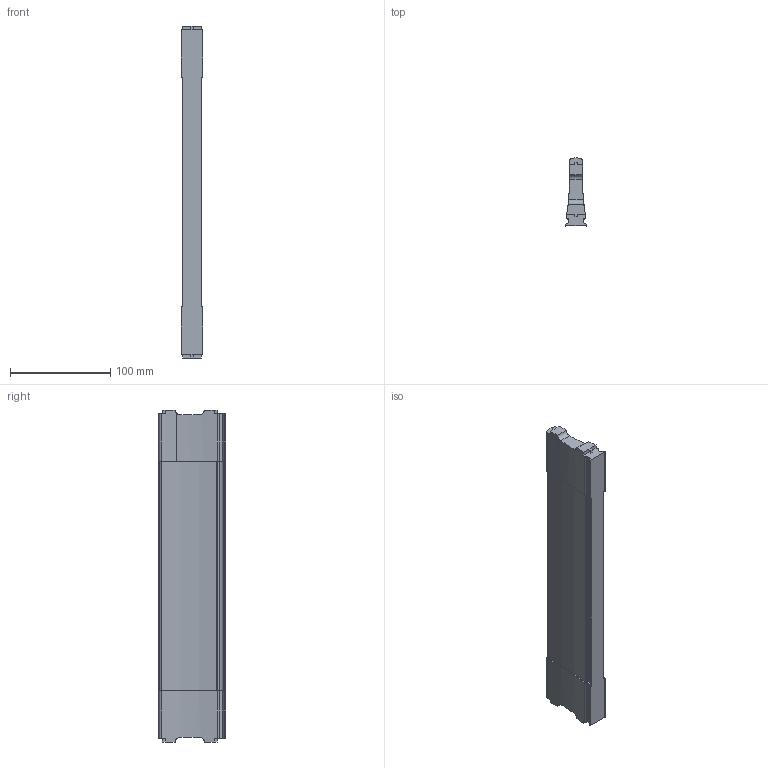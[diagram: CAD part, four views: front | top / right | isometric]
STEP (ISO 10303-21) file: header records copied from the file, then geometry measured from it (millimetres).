
FILE_DESCRIPTION (( 'STEP AP214' ), '1' );
FILE_NAME ('Traverse NOVAPro NL350 Mass X325,4_montiert.step', '2011-10-10T13:10:39', ( 'grass' ), ( '' ), 'SwSTEP 2.0', 'SolidWorks 2011', '' );
FILE_SCHEMA (( 'AUTOMOTIVE_DESIGN' ));
Length unit declared in the file: millimetre
Products named in the file (1): Traverse NOVAPro NL350 Mass X325,4_montiert
Bounding box: 21.4 x 67.5 x 331 mm (x, y, z)
Volume: 279786.7 mm3; surface area: 58361 mm2
Topology: 1 solids, 1 shells, 125 faces, 369 edges, 246 vertices
Faces by surface type: cylinder 68, plane 57
Entity records: 4377 total; most frequent: CARTESIAN_POINT 879, DIRECTION 753, ORIENTED_EDGE 738, EDGE_CURVE 369, AXIS2_PLACEMENT_3D 268, VERTEX_POINT 246, VECTOR 217, LINE 217
